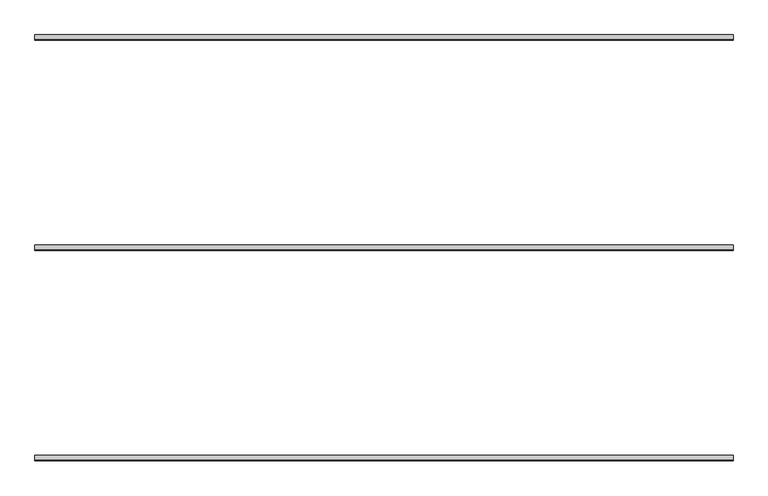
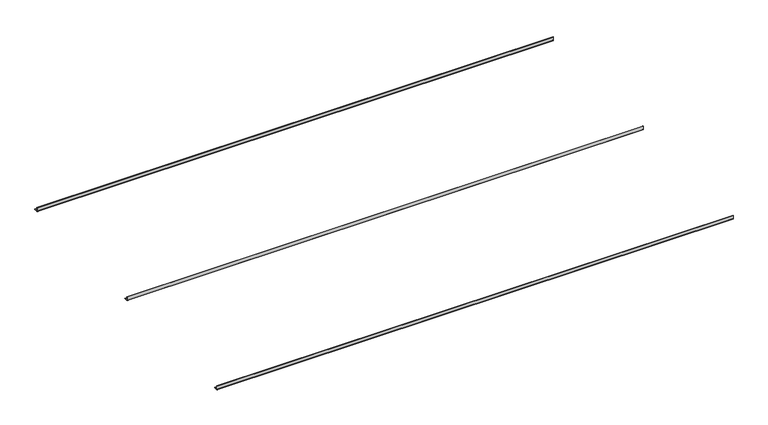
"""IFC4 building model written with IfcOpenShell, lengths in millimetres: proxy geometry, durlum_S7 : durlum_S7."""

from ifc_helpers import new_model, si_unit, point, frame, frame_2d, origin, place, context, project, spatial, polyline, circle_curve, trimmed, segment, composite_curve, outline, extrude, source, transform, mapped, element, save


def generic_models_da7f173b(model_context):
    return source(origin(), model_context, "Body", "SweptSolid", [
        extrude(outline(composite_curve([segment(polyline([(2.0, 5498.0851536), (2.0, 5472.1851536)]), True, "CONTINUOUS"), segment(trimmed(circle_curve(frame_2d((4.0, 5472.1851536)), 2.0), [point((2.0, 5472.1851536))], [point((4.0, 5470.1851536))], True, "CARTESIAN"), True, "CONTINUOUS"), segment(polyline([(4.0, 5470.1851536), (29.9, 5470.1851536), (29.9, 5468.1851536), (4.0, 5468.1851536)]), True, "CONTINUOUS"), segment(trimmed(circle_curve(frame_2d((4.0, 5472.1851536)), 4.0), [point((4.0, 5468.1851536))], [point((0.0, 5472.1851536))], False, "CARTESIAN"), True, "CONTINUOUS"), segment(polyline([(0.0, 5472.1851536), (0.0, 5498.0851536), (2.0, 5498.0851536)]), True, "CONTINUOUS")], self_intersect=False)), frame((-1990.0, 0.0, 0.0), z_axis=(1.0, 0.0, 0.0), x_axis=(0.0, 1.0, 0.0)), (0.0, 0.0, 1.0), 3980.0),
        extrude(outline(composite_curve([segment(polyline([(1202.0, 5498.0851536), (1202.0, 5472.1851536)]), True, "CONTINUOUS"), segment(trimmed(circle_curve(frame_2d((1204.0, 5472.1851536)), 2.0), [point((1202.0, 5472.1851536))], [point((1204.0, 5470.1851536))], True, "CARTESIAN"), True, "CONTINUOUS"), segment(polyline([(1204.0, 5470.1851536), (1229.9, 5470.1851536), (1229.9, 5468.1851536), (1204.0, 5468.1851536)]), True, "CONTINUOUS"), segment(trimmed(circle_curve(frame_2d((1204.0, 5472.1851536)), 4.0), [point((1204.0, 5468.1851536))], [point((1200.0, 5472.1851536))], False, "CARTESIAN"), True, "CONTINUOUS"), segment(polyline([(1200.0, 5472.1851536), (1200.0, 5498.0851536), (1202.0, 5498.0851536)]), True, "CONTINUOUS")], self_intersect=False)), frame((-1990.0, 0.0, 0.0), z_axis=(1.0, 0.0, 0.0), x_axis=(0.0, 1.0, 0.0)), (0.0, 0.0, 1.0), 3980.0),
        extrude(outline(composite_curve([segment(polyline([(-1198.0, 5498.0851536), (-1198.0, 5472.1851536)]), True, "CONTINUOUS"), segment(trimmed(circle_curve(frame_2d((-1196.0, 5472.1851536)), 2.0), [point((-1198.0, 5472.1851536))], [point((-1196.0, 5470.1851536))], True, "CARTESIAN"), True, "CONTINUOUS"), segment(polyline([(-1196.0, 5470.1851536), (-1170.1, 5470.1851536), (-1170.1, 5468.1851536), (-1196.0, 5468.1851536)]), True, "CONTINUOUS"), segment(trimmed(circle_curve(frame_2d((-1196.0, 5472.1851536)), 4.0), [point((-1196.0, 5468.1851536))], [point((-1200.0, 5472.1851536))], False, "CARTESIAN"), True, "CONTINUOUS"), segment(polyline([(-1200.0, 5472.1851536), (-1200.0, 5498.0851536), (-1198.0, 5498.0851536)]), True, "CONTINUOUS")], self_intersect=False)), frame((-1990.0, 0.0, 0.0), z_axis=(1.0, 0.0, 0.0), x_axis=(0.0, 1.0, 0.0)), (0.0, 0.0, 1.0), 3980.0),
    ])


if __name__ == "__main__":
    model = new_model("IFC4")
    model_context = context("Model", 3, world=origin())
    ifc_project = project(units=[si_unit("LENGTHUNIT", "METRE", prefix="MILLI")], contexts=[model_context])
    site = spatial("IfcSite", under=ifc_project)
    building = spatial("IfcBuilding", under=site)
    placement = place(None, origin())
    generic_models_shape = generic_models_da7f173b(model_context)
    element("IfcBuildingElementProxy", 1, Name="durlum_S7 : durlum_S7", ObjectType="durlum_S7 : durlum_S7", at=placement, inside=building, context=model_context, shape_type="MappedRepresentation", body=[
        mapped(generic_models_shape, transform((0.0, 0.0, 0.0), x_axis=(1.0, 0.0, 0.0), y_axis=(0.0, 1.0, 0.0), z_axis=(0.0, 0.0, 1.0))),
    ])
    save(model, "model.ifc")
